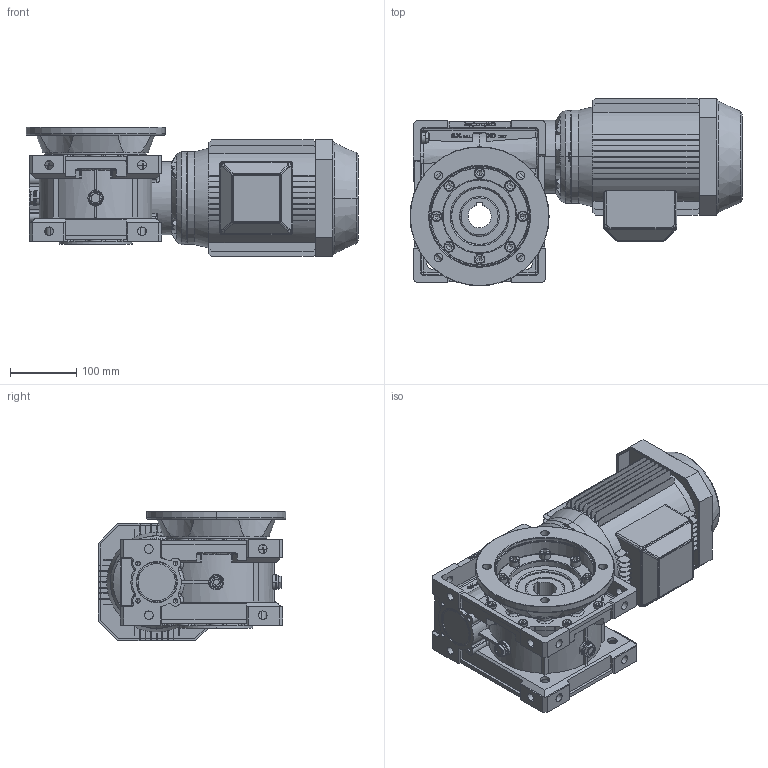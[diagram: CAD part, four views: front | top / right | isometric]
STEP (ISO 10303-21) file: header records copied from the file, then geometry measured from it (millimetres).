
FILE_DESCRIPTION((''),'2;1');
FILE_NAME('F:\Ghirri\3D\MV_V90\stp\MVFU90_B14-90L.stp','2005-06-13T20:14:31',('Administrator'),(''),'Autodesk Inventor 9','Autodesk Inventor 9','');
FILE_SCHEMA(('AUTOMOTIVE_DESIGN { 1 0 10303 214 1 1 1 1 }'));
Length unit declared in the file: millimetre
Products named in the file (17): MVFU90_B14-90L; 4009001-A0; 4009004-A0; TCCE-8X20-ribassata; 4009008-A0; UNI-ISO 6194-1 (4) Tipo4 60 x  85 x  8; Capp-62-7; Guarnizione-tappo-3-8-gas; Tappo-3-8-gas-nero; Paraolio-40-68-7; motori B14 90L; 4011006-B0; UNI 5739  (Filetto regolare) M8 x 25; FU_MV90; UNI 5931  (Filetto regolare) M 10 x  25
Assembly tree (38 placements, depth 3):
  MVFU90_B14-90L
    4009001-A0
    4009004-A0
    TCCE-8X20-ribassata  x8
    4009008-A0
    UNI-ISO 6194-1 (4) Tipo4 60 x  85 x  8  x2
    Capp-62-7
    Guarnizione-tappo-3-8-gas  x3
    Tappo-3-8-gas-nero  x3
    Paraolio-40-68-7
    motori B14 90L
    4011006-B0
      4011006-B0
      UNI 5739  (Filetto regolare) M8 x 25  x4
    FU_MV90
      FU_MV90
      UNI 5931  (Filetto regolare) M 10 x  25  x8
Bounding box: 501 x 283.5 x 195.5 mm (x, y, z)
Volume: 9606184 mm3; surface area: 1081118.8 mm2
Topology: 36 solids, 39 shells, 3903 faces, 10166 edges, 6452 vertices
Faces by surface type: plane 1559, cylinder 1138, bspline 921, cone 205, torus 76, sphere 4
Entity records: 124958 total; most frequent: CARTESIAN_POINT 43142, ORIENTED_EDGE 17758, DIRECTION 16064, EDGE_CURVE 8879, VERTEX_POINT 5740, AXIS2_PLACEMENT_3D 5590, VECTOR 4884, LINE 4884
